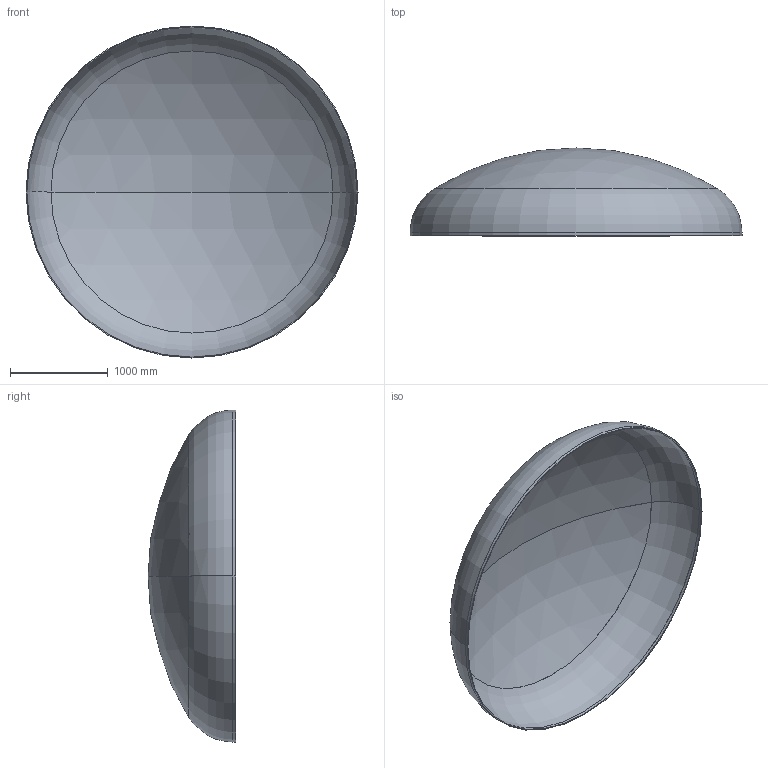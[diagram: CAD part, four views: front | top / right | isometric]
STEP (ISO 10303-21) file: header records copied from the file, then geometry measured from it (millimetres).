
FILE_DESCRIPTION (( 'STEP AP203' ), '1' );
FILE_NAME ('DIN 28013 Korbbogenform_-_Boden DIN 28013 - 3400 x 30 - I - s=9.step', '2016-07-01T19:09:10', ( '' ), ( '' ), 'SwSTEP 2.0', 'SolidWorks 2013', '' );
FILE_SCHEMA (( 'CONFIG_CONTROL_DESIGN' ));
Length unit declared in the file: millimetre
Products named in the file (1): DIN 28013 Korbbogenform_-_Boden DIN 28013 - 3400 x 30 - I - s=9
Bounding box: 3400 x 899.3 x 3400 mm (x, y, z)
Volume: 115719358.7 mm3; surface area: 25811450.5 mm2
Topology: 1 solids, 1 shells, 13 faces, 24 edges, 14 vertices
Faces by surface type: torus 4, cylinder 4, sphere 4, plane 1
Entity records: 407 total; most frequent: DIRECTION 72, CARTESIAN_POINT 52, ORIENTED_EDGE 48, AXIS2_PLACEMENT_3D 34, EDGE_CURVE 24, CIRCLE 20, VERTEX_POINT 14, EDGE_LOOP 14
